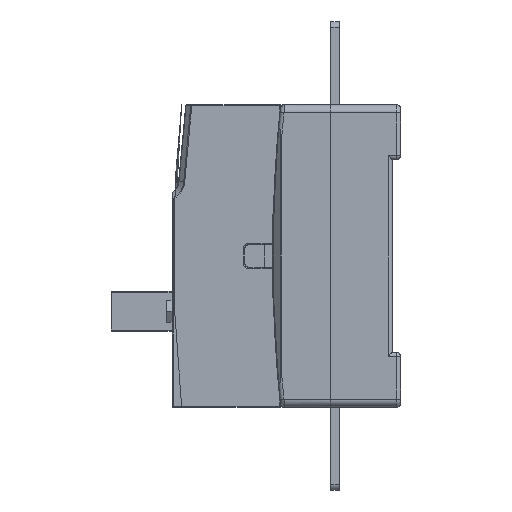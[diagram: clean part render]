
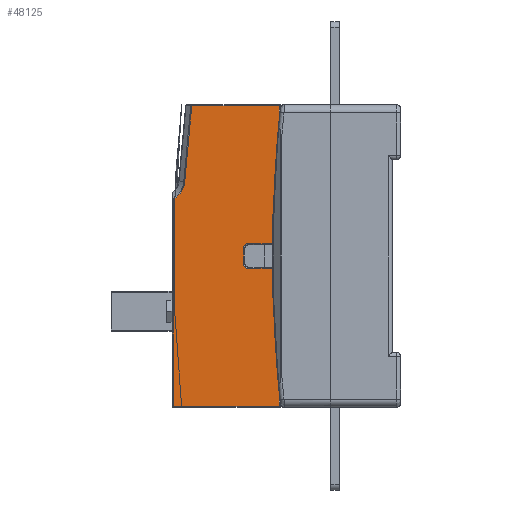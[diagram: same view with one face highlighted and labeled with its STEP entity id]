
A CAD part, left-side view. The second image highlights one B-rep face of the part: STEP entity #48125.
In plain terms, the highlighted planar face has unit normal (-1, 0, 0).
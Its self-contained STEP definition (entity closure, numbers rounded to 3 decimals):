
#43032=DIRECTION('',(0.,-1.,0.));
#43033=VECTOR('',#43032,1.5);
#43034=CARTESIAN_POINT('',(-37.5,46.,13.5));
#43035=LINE('',#43034,#43033);
#43287=DIRECTION('',(0.,0.,-1.));
#43288=VECTOR('',#43287,9.);
#43289=CARTESIAN_POINT('',(-37.5,46.,13.5));
#43290=LINE('',#43289,#43288);
#43291=CARTESIAN_POINT('',(-37.5,56.,3.));
#43292=DIRECTION('',(-1.,0.,0.));
#43293=DIRECTION('',(0.,0.,1.));
#43294=AXIS2_PLACEMENT_3D('',#43291,#43292,#43293);
#43296=CARTESIAN_POINT('',(-37.5,56.,-3.));
#43297=DIRECTION('',(-1.,0.,0.));
#43298=DIRECTION('',(0.,1.,0.));
#43299=AXIS2_PLACEMENT_3D('',#43296,#43297,#43298);
#43301=DIRECTION('',(0.,-1.,0.));
#43302=VECTOR('',#43301,1.5);
#43303=CARTESIAN_POINT('',(-37.5,46.,-13.5));
#43304=LINE('',#43303,#43302);
#43305=CARTESIAN_POINT('',(-37.5,86.598,27.544));
#43306=DIRECTION('',(-1.,0.,0.));
#43307=DIRECTION('',(0.,-0.467,-0.884));
#43308=AXIS2_PLACEMENT_3D('',#43305,#43306,#43307);
#43310=DIRECTION('',(0.,-0.093,0.996));
#43311=VECTOR('',#43310,27.796);
#43312=CARTESIAN_POINT('',(-37.5,78.925,26.825));
#43313=LINE('',#43312,#43311);
#43323=DIRECTION('',(0.,0.,1.));
#43324=VECTOR('',#43323,41.);
#43325=CARTESIAN_POINT('',(-37.5,44.5,13.5));
#43326=LINE('',#43325,#43324);
#43346=DIRECTION('',(0.,1.,0.));
#43347=VECTOR('',#43346,31.83);
#43348=CARTESIAN_POINT('',(-37.5,44.5,54.5));
#43349=LINE('',#43348,#43347);
#45256=DIRECTION('',(0.,-1.,0.));
#45257=VECTOR('',#45256,38.5);
#45258=CARTESIAN_POINT('',(-37.5,83.,-54.5));
#45259=LINE('',#45258,#45257);
#45288=DIRECTION('',(0.,0.,1.));
#45289=VECTOR('',#45288,41.);
#45290=CARTESIAN_POINT('',(-37.5,44.5,-54.5));
#45291=LINE('',#45290,#45289);
#45296=DIRECTION('',(0.,0.,-1.));
#45297=VECTOR('',#45296,75.229);
#45298=CARTESIAN_POINT('',(-37.5,83.,20.729));
#45299=LINE('',#45298,#45297);
#46496=DIRECTION('',(0.,0.,1.));
#46497=VECTOR('',#46496,9.);
#46498=CARTESIAN_POINT('',(-37.5,46.,-13.5));
#46499=LINE('',#46498,#46497);
#46512=DIRECTION('',(0.,1.,0.));
#46513=VECTOR('',#46512,10.);
#46514=CARTESIAN_POINT('',(-37.5,46.,-4.5));
#46515=LINE('',#46514,#46513);
#46550=DIRECTION('',(0.,0.,1.));
#46551=VECTOR('',#46550,6.);
#46552=CARTESIAN_POINT('',(-37.5,57.5,-3.));
#46553=LINE('',#46552,#46551);
#46577=DIRECTION('',(0.,-1.,0.));
#46578=VECTOR('',#46577,10.);
#46579=CARTESIAN_POINT('',(-37.5,56.,4.5));
#46580=LINE('',#46579,#46578);
#46887=CARTESIAN_POINT('',(-37.5,44.5,-13.5));
#46889=VERTEX_POINT('',#46887);
#46891=CARTESIAN_POINT('',(-37.5,46.,-13.5));
#46892=VERTEX_POINT('',#46891);
#46899=CARTESIAN_POINT('',(-37.5,44.5,13.5));
#46900=CARTESIAN_POINT('',(-37.5,44.5,54.5));
#46901=VERTEX_POINT('',#46899);
#46902=VERTEX_POINT('',#46900);
#46903=CARTESIAN_POINT('',(-37.5,46.,13.5));
#46904=VERTEX_POINT('',#46903);
#46905=CARTESIAN_POINT('',(-37.5,46.,4.5));
#46906=VERTEX_POINT('',#46905);
#46907=CARTESIAN_POINT('',(-37.5,56.,4.5));
#46908=VERTEX_POINT('',#46907);
#46909=CARTESIAN_POINT('',(-37.5,57.5,3.));
#46910=VERTEX_POINT('',#46909);
#46911=CARTESIAN_POINT('',(-37.5,57.5,-3.));
#46912=VERTEX_POINT('',#46911);
#46913=CARTESIAN_POINT('',(-37.5,56.,-4.5));
#46914=VERTEX_POINT('',#46913);
#46915=CARTESIAN_POINT('',(-37.5,46.,-4.5));
#46916=VERTEX_POINT('',#46915);
#46917=CARTESIAN_POINT('',(-37.5,44.5,-54.5));
#46918=VERTEX_POINT('',#46917);
#46919=CARTESIAN_POINT('',(-37.5,83.,-54.5));
#46920=VERTEX_POINT('',#46919);
#46921=CARTESIAN_POINT('',(-37.5,83.,20.729));
#46922=VERTEX_POINT('',#46921);
#46923=CARTESIAN_POINT('',(-37.5,78.925,26.825));
#46924=VERTEX_POINT('',#46923);
#46925=CARTESIAN_POINT('',(-37.5,76.33,54.5));
#46926=VERTEX_POINT('',#46925);
#48088=CARTESIAN_POINT('',(-37.5,43.,-55.));
#48089=DIRECTION('',(-1.,0.,0.));
#48090=DIRECTION('',(0.,0.,1.));
#48091=AXIS2_PLACEMENT_3D('',#48088,#48089,#48090);
#48092=PLANE('',#48091);
#48094=ORIENTED_EDGE('',*,*,#48093,.F.);
#48095=ORIENTED_EDGE('',*,*,#47829,.F.);
#48097=ORIENTED_EDGE('',*,*,#48096,.T.);
#48099=ORIENTED_EDGE('',*,*,#48098,.F.);
#48101=ORIENTED_EDGE('',*,*,#48100,.T.);
#48103=ORIENTED_EDGE('',*,*,#48102,.F.);
#48105=ORIENTED_EDGE('',*,*,#48104,.T.);
#48107=ORIENTED_EDGE('',*,*,#48106,.F.);
#48109=ORIENTED_EDGE('',*,*,#48108,.F.);
#48110=ORIENTED_EDGE('',*,*,#48076,.T.);
#48112=ORIENTED_EDGE('',*,*,#48111,.F.);
#48114=ORIENTED_EDGE('',*,*,#48113,.F.);
#48116=ORIENTED_EDGE('',*,*,#48115,.F.);
#48118=ORIENTED_EDGE('',*,*,#48117,.T.);
#48120=ORIENTED_EDGE('',*,*,#48119,.T.);
#48122=ORIENTED_EDGE('',*,*,#48121,.F.);
#48123=EDGE_LOOP('',(#48094,#48095,#48097,#48099,#48101,#48103,#48105,#48107,
#48109,#48110,#48112,#48114,#48116,#48118,#48120,#48122));
#48124=FACE_OUTER_BOUND('',#48123,.F.);
#43295=CIRCLE('',#43294,1.5);
#43300=CIRCLE('',#43299,1.5);
#43309=CIRCLE('',#43308,7.707);
#47829=EDGE_CURVE('',#46904,#46901,#43035,.T.);
#48076=EDGE_CURVE('',#46892,#46889,#43304,.T.);
#48093=EDGE_CURVE('',#46901,#46902,#43326,.T.);
#48096=EDGE_CURVE('',#46904,#46906,#43290,.T.);
#48098=EDGE_CURVE('',#46908,#46906,#46580,.T.);
#48100=EDGE_CURVE('',#46908,#46910,#43295,.T.);
#48102=EDGE_CURVE('',#46912,#46910,#46553,.T.);
#48104=EDGE_CURVE('',#46912,#46914,#43300,.T.);
#48106=EDGE_CURVE('',#46916,#46914,#46515,.T.);
#48108=EDGE_CURVE('',#46892,#46916,#46499,.T.);
#48111=EDGE_CURVE('',#46918,#46889,#45291,.T.);
#48113=EDGE_CURVE('',#46920,#46918,#45259,.T.);
#48115=EDGE_CURVE('',#46922,#46920,#45299,.T.);
#48117=EDGE_CURVE('',#46922,#46924,#43309,.T.);
#48119=EDGE_CURVE('',#46924,#46926,#43313,.T.);
#48121=EDGE_CURVE('',#46902,#46926,#43349,.T.);
#48125=ADVANCED_FACE('',(#48124),#48092,.T.);
